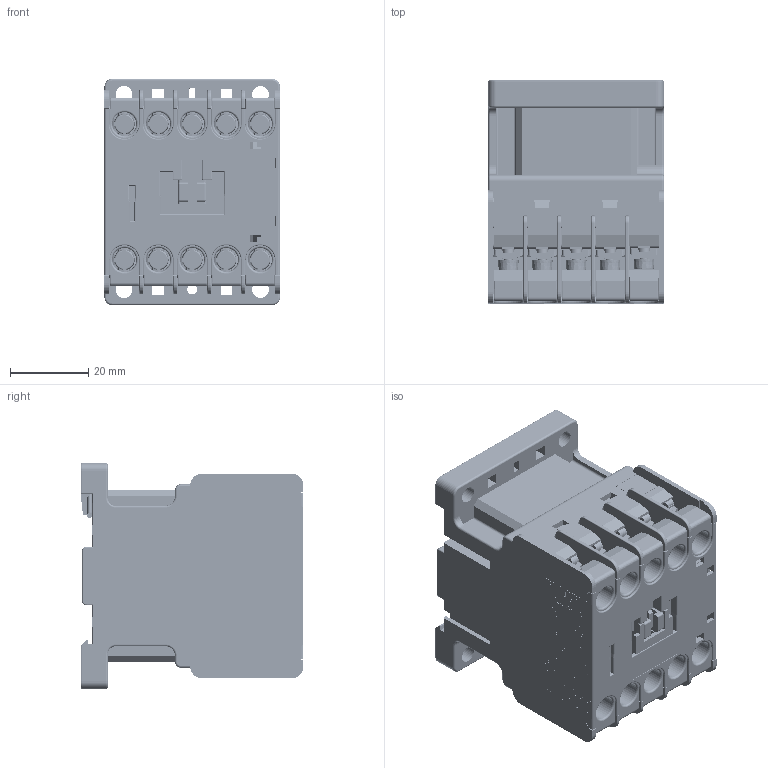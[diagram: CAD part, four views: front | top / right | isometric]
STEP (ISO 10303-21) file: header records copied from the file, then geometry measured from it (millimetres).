
FILE_DESCRIPTION (( 'STEP AP214' ), '1' );
FILE_NAME ('TGCA_06M_16M.STEP', '2026-02-02T10:16:34', ( '' ), ( '' ), 'SwSTEP 2.0', 'SolidWorks 2024', '' );
FILE_SCHEMA (( 'AUTOMOTIVE_DESIGN' ));
Products named in the file (1): TGCA_06M_16M
Bounding box: 45.11 x 57.1 x 58 mm (x, y, z)
Volume: 46514.3 mm3; surface area: 76398.2 mm2
Topology: 2 solids, 2 shells, 8070 faces, 22557 edges, 14507 vertices
Faces by surface type: plane 5019, bspline 1413, cylinder 1222, torus 304, cone 68, sphere 44
Entity records: 272483 total; most frequent: CARTESIAN_POINT 73427, ORIENTED_EDGE 45044, DIRECTION 35356, EDGE_CURVE 22522, VECTOR 16176, LINE 16176, VERTEX_POINT 14507, AXIS2_PLACEMENT_3D 9590
